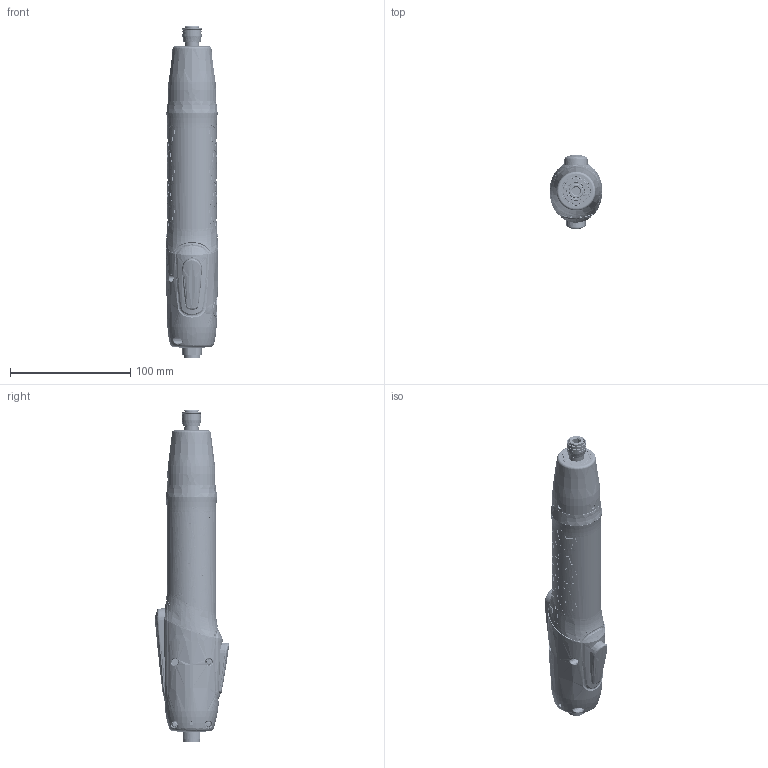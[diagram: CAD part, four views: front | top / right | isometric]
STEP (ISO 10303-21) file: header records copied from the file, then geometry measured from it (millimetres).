
FILE_DESCRIPTION((''),'2;1');
FILE_NAME('IR-_X2_4E2D578B4F20611F566888C5_ASM','2025-10-20T12:18:57',('robinsonzhou'),(''),'CREO PARAMETRIC BY PTC INC, 2023494','CREO PARAMETRIC BY PTC INC, 2023494','');
FILE_SCHEMA(('CONFIG_CONTROL_DESIGN'));
Length unit declared in the file: millimetre
Products named in the file (46): P6Z069-IR_X2_4E2D578B4F2-130451; P7L394-IR_X2_55466807_X0_LOGO-2; P6Z069-IR_X2_4E2D578B4F2-303080; P6Z069-L-_X2_530580F6_X0_-20250; P8T219-_X2_688582B1516D89D287BA; _X2_85845E73593453415B57_X0_M2X; 4S3040__X2_538B6263677F5F397C27; P6Z069-R-_X2_530580F6_X0_-20250; P6P023-_X2_6B638F6C630994AE_X0_; AIS-M-_X2_94DC5957_X0_-20241122; P2V004-_X2_78C194C1_X0_; _X2_4F20611F566853CD8F6C630994A; _X2_4F20611F56686B638F6C630994A; P6R012-_X2_56FA5B9A5708_X0_-202; P6P024-_X2_53CD8F6C630994AE_X0_; _P2G034-5P-200001; 3-53420001; 2-1561350001; 1-3090510001; L-002__X2_706F5EA7_X0__LA-002___ASM; P6Z071W-L-004__X2_591658F3_X0_B; 2-151550001; 50001; 4-3052770001; 1-3060200001; 3-3180940001; LED_X2_706F706F76D8_X0_3_0_X2_7_ASM; KM-3P_X2_63D25934_X0_-20240914_; LED_X2_706F76D87EC44EF6_X0_-202_ASM; L-001__X2_706F7F69_X0__2_3; _X2_4E2D578B4E0B538B5F0F_X0_LED_ASM; CM-703_I_X2_62A45957_X0_P1_1; 1524X1_2_X2_53CD541153617C27_X0; DM-202_J_X2_4E0A8F74_X0_B7_5__X; _X2_8F9351FA6BB59F7F8F6E8F74_X0; 156902ZZ-20250312_6901ZZ_1; 15_X2_4E0B538B8F745F397C27_X0_0; DM-304____X2_4E0B8F74_X0_SB_2_0; DM-830__X2_57AB5708_X0_24X1_1; 156902ZZ-20250312_6802ZZ_1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
Assembly tree (59 placements, depth 5):
  IR-_X2_4E2D578B4F20611F566888C5_ASM
    P6Z069-IR_X2_4E2D578B4F2-130451
    P7L394-IR_X2_55466807_X0_LOGO-2
    P6Z069-IR_X2_4E2D578B4F2-303080
    P6Z069-L-_X2_530580F6_X0_-20250
    P8T219-_X2_688582B1516D89D287BA  x4
    _X2_85845E73593453415B57_X0_M2X
    4S3040__X2_538B6263677F5F397C27  x2
    P6Z069-R-_X2_530580F6_X0_-20250
    P6P023-_X2_6B638F6C630994AE_X0_
    AIS-M-_X2_94DC5957_X0_-20241122  x4
    P2V004-_X2_78C194C1_X0_  x2
    _X2_4F20611F566853CD8F6C630994A
    _X2_4F20611F56686B638F6C630994A
    P6R012-_X2_56FA5B9A5708_X0_-202
    P6P024-_X2_53CD8F6C630994AE_X0_
    _P2G034-5P-200001
    _X2_4E2D578B4E0B538B5F0F_X0_LED_ASM
      L-002__X2_706F5EA7_X0__LA-002___ASM
        3-53420001
        2-1561350001
        1-3090510001
      P6Z071W-L-004__X2_591658F3_X0_B
      LED_X2_706F76D87EC44EF6_X0_-202_ASM
        LED_X2_706F706F76D8_X0_3_0_X2_7_ASM
          2-151550001
          50001
          4-3052770001
          1-3060200001
          3-3180940001
        KM-3P_X2_63D25934_X0_-20240914_
      L-001__X2_706F7F69_X0__2_3
    CM-703_I_X2_62A45957_X0_P1_1
    15NM_X2_4E0B538B5F0F4F20-315117_ASM
      _X2_4E2D578B4F20611F56684E0B538_ASM
        1524X1_2_X2_53CD541153617C27_X0  x3
        DM-202_J_X2_4E0A8F74_X0_B7_5__X
        _X2_8F9351FA6BB59F7F8F6E8F74_X0  x3
        156902ZZ-20250312_6901ZZ_1  x2
        15_X2_4E0B538B8F745F397C27_X0_0
        DM-304____X2_4E0B8F74_X0_SB_2_0
        DM-830__X2_57AB5708_X0_24X1_1
        156902ZZ-20250312_6802ZZ_1  x2
        156902ZZ-20250312_6706ZZS_1
        15_X2_8F747528538B624194A24E1D6
      P4H290-DM-650_150_X2_8F745E3D_X
Bounding box: 43.9 x 61.92 x 276.26 mm (x, y, z)
Volume: 132822.3 mm3; surface area: 143184.8 mm2
Topology: 53 solids, 53 shells, 6199 faces, 17594 edges, 11649 vertices
Faces by surface type: cylinder 1868, plane 1675, bspline 1056, extrusion 905, torus 256, cone 252, sphere 179, revolution 8
Entity records: 331954 total; most frequent: CARTESIAN_POINT 193010, ORIENTED_EDGE 33816, DIRECTION 19848, EDGE_CURVE 16908, VERTEX_POINT 11307, B_SPLINE_CURVE_WITH_KNOTS 9535, VECTOR 6806, EDGE_LOOP 6613
